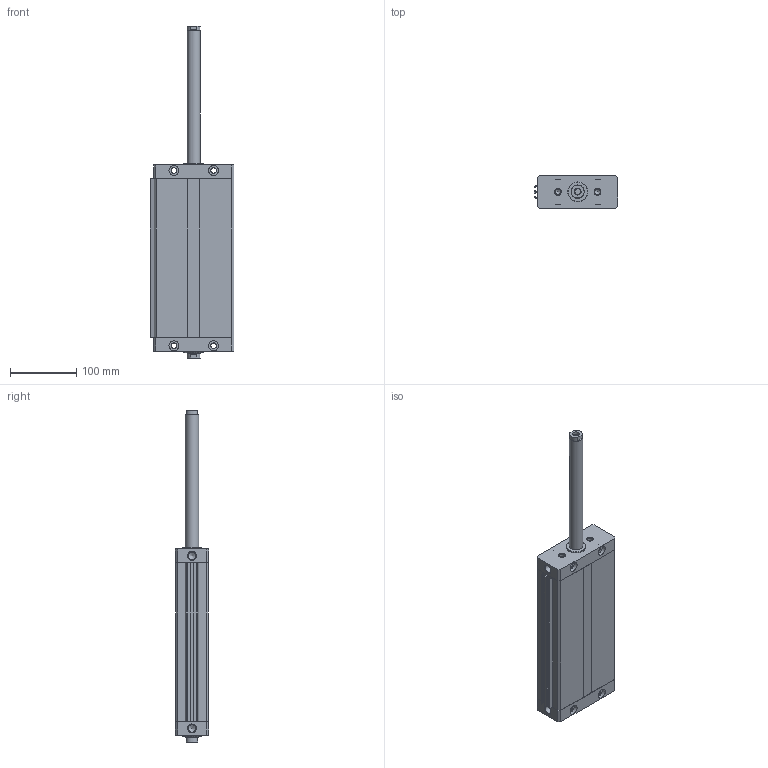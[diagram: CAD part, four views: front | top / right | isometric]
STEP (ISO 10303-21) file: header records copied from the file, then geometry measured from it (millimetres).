
FILE_DESCRIPTION((''),'2;1');
FILE_NAME('I:\Area Tecnica\Disegni\VARIE-3D\Componenti\1370 - CPO\1370_##_0000_03\1370_63_0200_03-01.iam.step','2010-12-16T11:01:43',(''),(''),'Autodesk Inventor 2011','Autodesk Inventor 2011','');
FILE_SCHEMA(('AUTOMOTIVE_DESIGN { 1 0 10303 214 1 1 1 1 }'));
Length unit declared in the file: millimetre
Products named in the file (5): 1370_63_0200_03-01; 1370_05_63_0000; 1370_06_63_0200; 1370_08_63_0000; 1370_3_63_0200
Assembly tree (4 placements, depth 2):
  1370_63_0200_03-01
    1370_05_63_0000
    1370_06_63_0200
    1370_08_63_0000
    1370_3_63_0200
Bounding box: 126.75 x 50 x 502 mm (x, y, z)
Volume: 1133310.8 mm3; surface area: 252380.9 mm2
Topology: 4 solids, 4 shells, 164 faces, 398 edges, 252 vertices
Faces by surface type: plane 94, cylinder 50, cone 20
Full cylindrical faces by diameter (mm): 8.5 x20, 10.3 x2, 11.75 x2, 15 x8, 20 x4, 30 x2
Entity records: 4722 total; most frequent: DIRECTION 794, CARTESIAN_POINT 737, ORIENTED_EDGE 652, EDGE_CURVE 326, AXIS2_PLACEMENT_3D 295, EDGE_LOOP 254, VERTEX_POINT 238, VECTOR 204
